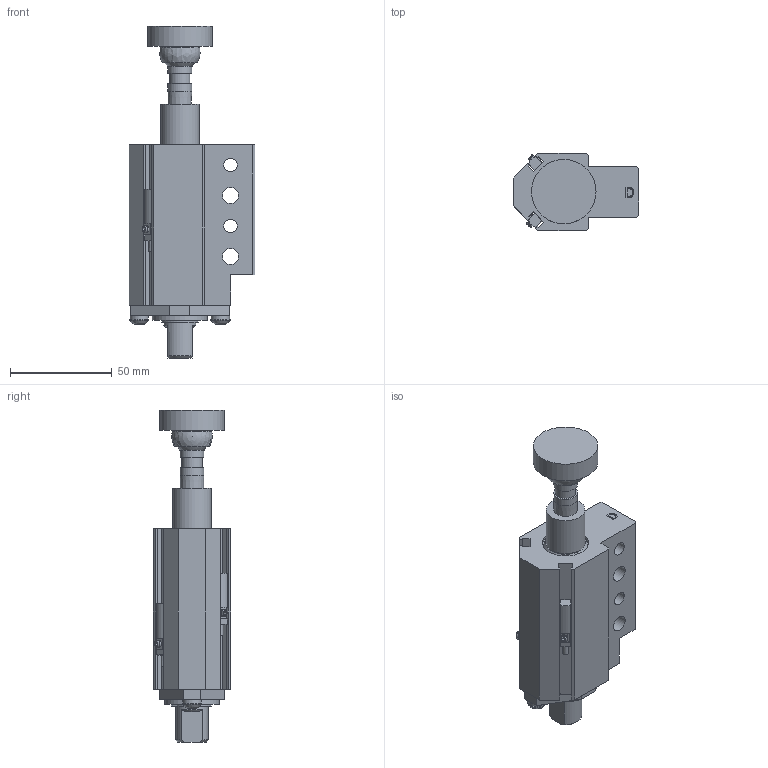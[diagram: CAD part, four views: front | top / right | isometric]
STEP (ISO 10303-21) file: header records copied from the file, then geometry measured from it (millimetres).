
FILE_DESCRIPTION(/* description */ ('MINI PASS THRU GROUND BLOCK'),/* implementation_level */ '2;1');
FILE_NAME(/* name */ 'C:\Vault Workspace\CAD\Welker\Cylinders\GBM\GBMCDL3.stp',/* time_stamp */ '2021-06-25T07:41:09-04:00',/* author */ ('KPL'),/* organization */ (''),/* preprocessor_version */ 'ST-DEVELOPER v18.1',/* originating_system */ 'Autodesk Inventor 2020',/* authorisation */ '');
FILE_SCHEMA (('AUTOMOTIVE_DESIGN { 1 0 10303 214 3 1 1 }'));
Products named in the file (11): GBML01; 91590A126; 96100A152; L3 Sensor 1; M5X0.8-10 BHCS; NL5; GBME01D; GBME02; GBME04; SN-1410; AN-05U2145
Assembly tree (13 placements, depth 2):
  GBML01
    91590A126
    96100A152
    L3 Sensor 1  x2
    M5X0.8-10 BHCS  x2
    NL5  x2
    GBME01D
    GBME02
    GBME04
    SN-1410
    AN-05U2145
Bounding box: 62 x 38.1 x 163.5 mm (x, y, z)
Volume: 139210.5 mm3; surface area: 50542.8 mm2
Topology: 13 solids, 13 shells, 440 faces, 1207 edges, 808 vertices
Faces by surface type: plane 307, cylinder 97, cone 18, bspline 10, torus 4, sphere 4
Full cylindrical faces by diameter (mm): 1.194 x2, 2.9 x2, 4.134 x2, 5 x2, 5.4 x2, 5.5 x2, 6.647 x3, 8 x2, 9 x2, 9.5 x2, 10 x1, 11.76 x2, 14.935 x1, 15.875 x3, 16.383 x1, 19.05 x1, 19.177 x1, 22.225 x2, 22.784 x1, 24.613 x1, 25.654 x1, 25.705 x1, 26.987 x1, 28.591 x1, 28.667 x1, 31.75 x1
Entity records: 10130 total; most frequent: CARTESIAN_POINT 1860, DIRECTION 1645, ORIENTED_EDGE 1594, EDGE_CURVE 797, AXIS2_PLACEMENT_3D 568, VERTEX_POINT 545, LINE 509, VECTOR 509
